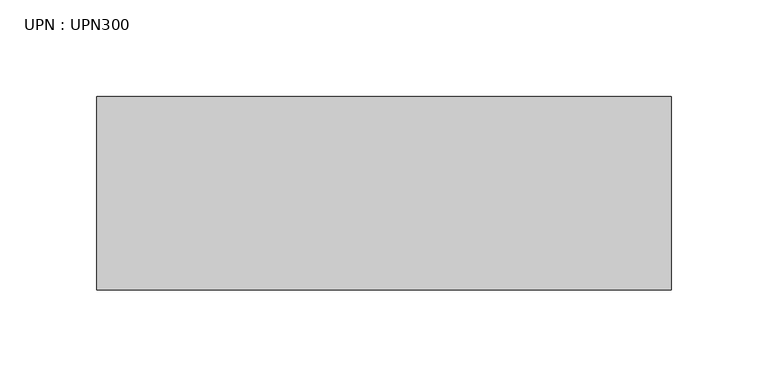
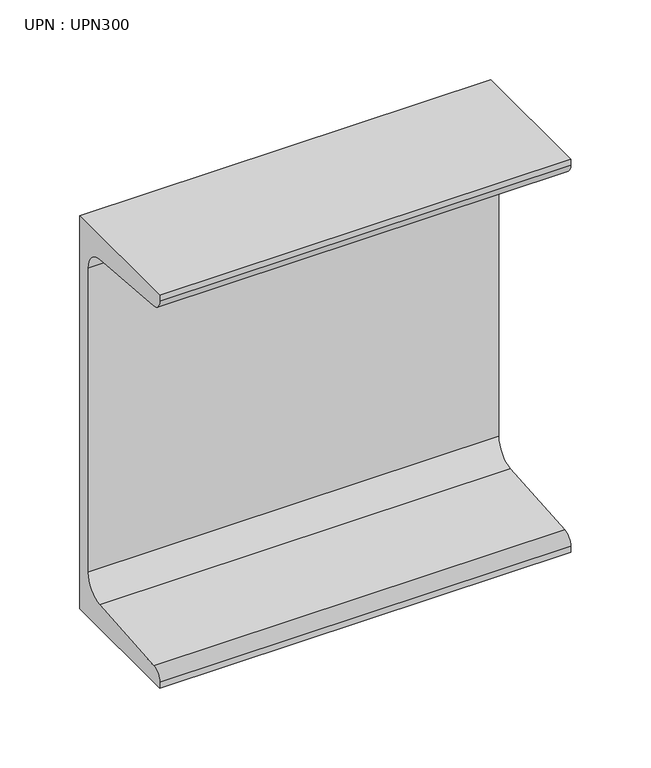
"""IFC4 building model written with IfcOpenShell, lengths in millimetres: beam geometry, UPN : UPN300."""

from ifc_helpers import new_model, si_unit, point, frame, frame_2d, origin, place, context, project, spatial, polyline, circle_curve, trimmed, segment, composite_curve, outline, extrude, source, transform, mapped, element, save


def upn_upn300_db688387(model_context):
    return source(origin(), model_context, "Body", "SweptSolid", [
        extrude(outline(composite_curve([segment(polyline([(27.0, 150.0), (27.0, -150.0), (-73.0, -150.0), (-73.0, -145.3826224)]), True, "CONTINUOUS"), segment(trimmed(circle_curve(frame_2d((-65.0, -145.3826224)), 8.0), [point((-73.0, -145.3826224))], [point((-65.637416, -137.4080566))], False, "CARTESIAN"), True, "CONTINUOUS"), segment(polyline([(-65.637416, -137.4080566), (2.274832, -131.9797543)]), True, "CONTINUOUS"), segment(trimmed(circle_curve(frame_2d((1.0, -116.0306225)), 16.0), [point((2.274832, -131.9797543))], [point((17.0, -116.0306225))], True, "CARTESIAN"), True, "CONTINUOUS"), segment(polyline([(17.0, -116.0306225), (17.0, 116.0306225)]), True, "CONTINUOUS"), segment(trimmed(circle_curve(frame_2d((1.0, 116.0306225)), 16.0), [point((17.0, 116.0306225))], [point((2.274832, 131.9797543))], True, "CARTESIAN"), True, "CONTINUOUS"), segment(polyline([(2.274832, 131.9797543), (-65.637416, 137.4080566)]), True, "CONTINUOUS"), segment(trimmed(circle_curve(frame_2d((-65.0, 145.3826224)), 8.0), [point((-65.637416, 137.4080566))], [point((-73.0, 145.3826224))], False, "CARTESIAN"), True, "CONTINUOUS"), segment(polyline([(-73.0, 145.3826224), (-73.0, 150.0), (27.0, 150.0)]), True, "CONTINUOUS")], self_intersect=False)), frame((-162.2, 0.0, 0.0), z_axis=(1.0, 0.0, 0.0), x_axis=(0.0, 1.0, 0.0)), (0.0, 0.0, 1.0), 296.8),
    ])


if __name__ == "__main__":
    model = new_model("IFC4")
    model_context = context("Model", 3, world=origin())
    ifc_project = project(units=[si_unit("LENGTHUNIT", "METRE", prefix="MILLI")], contexts=[model_context])
    site = spatial("IfcSite", under=ifc_project)
    building = spatial("IfcBuilding", under=site)
    placement = place(None, origin())
    upn_upn300_shape = upn_upn300_db688387(model_context)
    element("IfcBeam", 1, ObjectType="UPN : UPN300", at=placement, inside=building, context=model_context, shape_type="MappedRepresentation", body=[
        mapped(upn_upn300_shape, transform((0.0, 0.0, 0.0), x_axis=(1.0, 0.0, 0.0), y_axis=(0.0, 1.0, 0.0), z_axis=(0.0, 0.0, 1.0))),
    ])
    save(model, "model.ifc")
